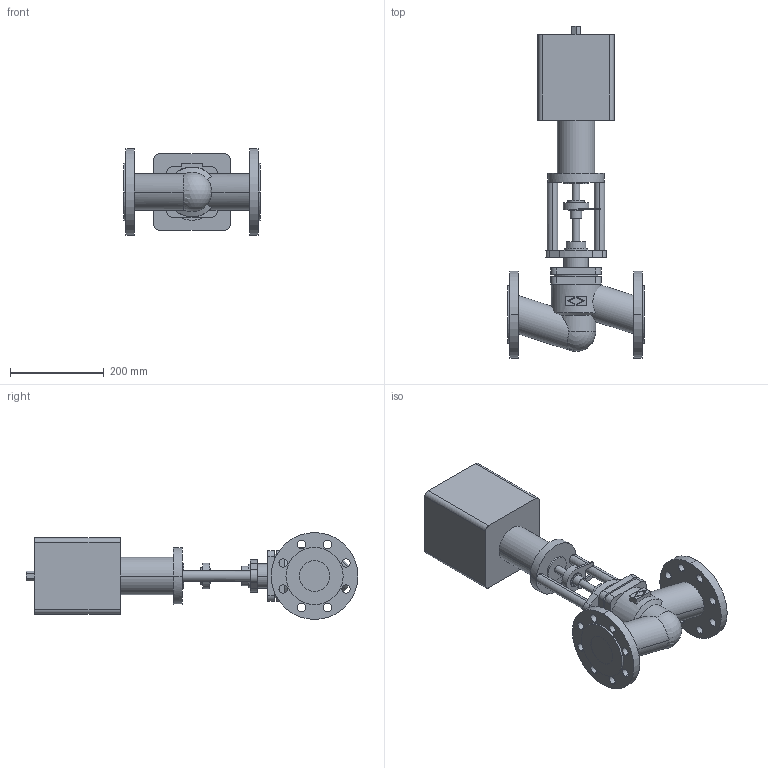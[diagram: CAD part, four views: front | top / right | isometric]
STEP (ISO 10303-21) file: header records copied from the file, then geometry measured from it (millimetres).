
FILE_DESCRIPTION( ( '' ), '1' );
FILE_NAME( 'F:/DE-SHS/TB/OR/04-Sonstiges/daten/files_3d/c000000779.stp', '2014-11-04T12:59:28', ( '' ), ( '' ), ' ', ' ', ' ' );
FILE_SCHEMA( ( 'CONFIG_CONTROL_DESIGN' ) );
Length unit declared in the file: millimetre
Products named in the file (2): 1; 2
Bounding box: 290 x 707.5 x 185 mm (x, y, z)
Volume: 9056229.8 mm3; surface area: 517968.8 mm2
Topology: 2 solids, 2 shells, 178 faces, 443 edges, 293 vertices
Faces by surface type: cylinder 98, plane 77, cone 2, sphere 1
Entity records: 6025 total; most frequent: CARTESIAN_POINT 1446, DIRECTION 995, ORIENTED_EDGE 882, EDGE_CURVE 441, AXIS2_PLACEMENT_3D 388, VERTEX_POINT 293, EDGE_LOOP 236, LINE 219
